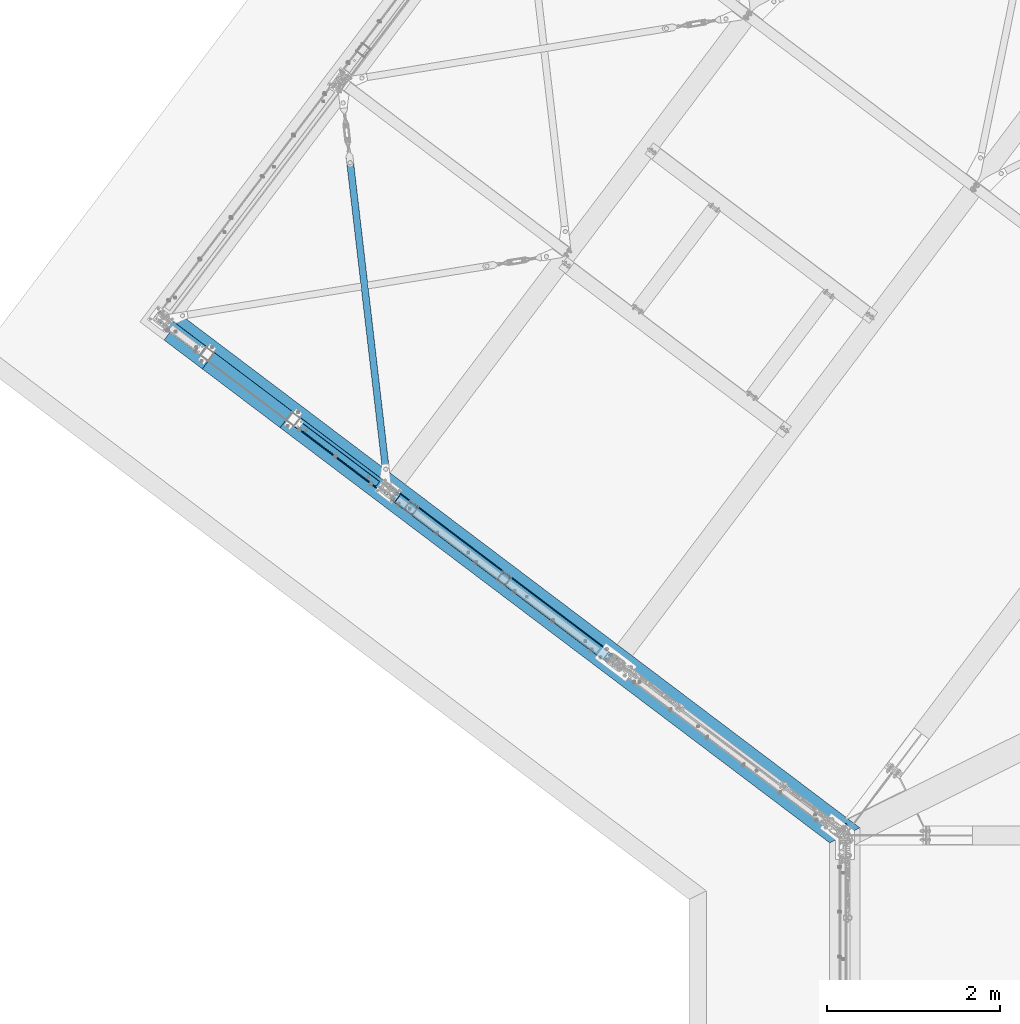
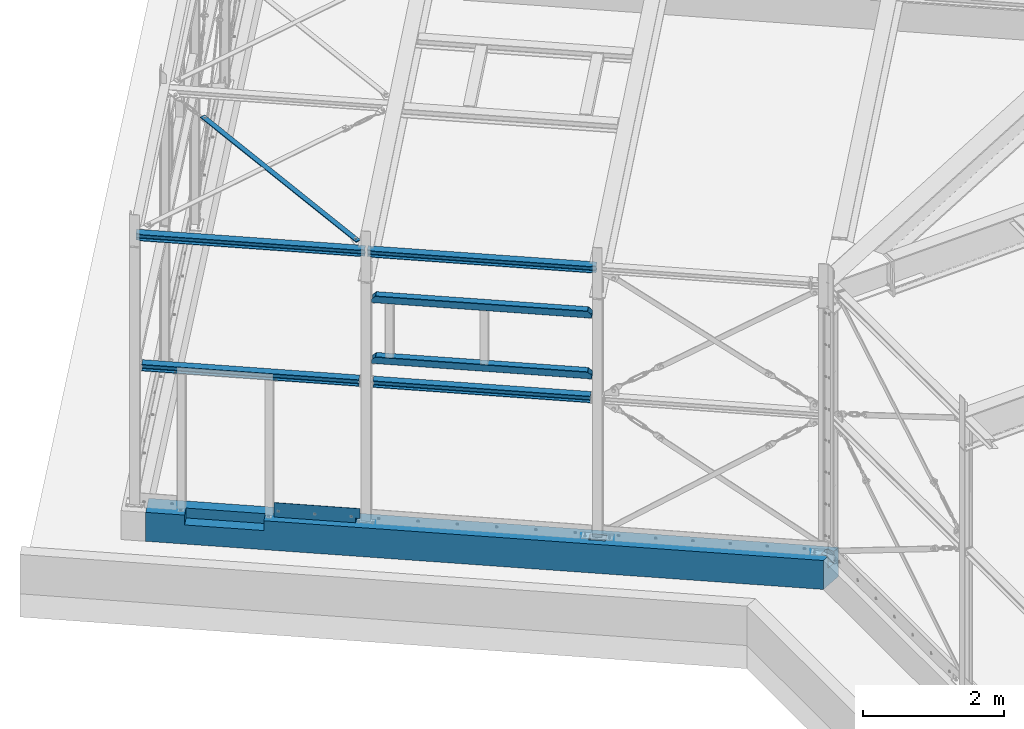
# One storey, part 19 of 476: 8 beams, 1 member, 51 openings.
"""IFC2X3 building model written with IfcOpenShell, lengths in millimetres."""

from ifc_helpers import new_model, entity, si_unit, converted_unit, frame, frame_2d, origin, origin_with_axes, origin_2d, origin_2d_with_axis, place, context, project, spatial, polyline, rectangle, hollow_rectangle, circle, i_section, l_section, outline, extrude, clip, halfspace, material, element, save


model = new_model("IFC2X3")

# Units and contexts
model_context = context("Model", 3, precision=1e-09, world=origin_with_axes())
ifc_project = project(units=[si_unit("LENGTHUNIT", "METRE", prefix="MILLI"), si_unit("AREAUNIT", "SQUARE_METRE"), si_unit("VOLUMEUNIT", "CUBIC_METRE"), converted_unit("PLANEANGLEUNIT", "DEGREE", entity("IfcPlaneAngleMeasure", 0.01745329), si_unit("PLANEANGLEUNIT", "RADIAN"), dimensions=[0, 0, 0, 0, 0, 0, 0])], contexts=[model_context])

# Site, building, storey
site_placement = place(None, origin_with_axes())
site = spatial("IfcSite", under=ifc_project, at=site_placement, Name="mKR Teilneubau & Sanierung BA1 - Ostfildern", CompositionType="ELEMENT")
building_placement = place(site_placement, origin_with_axes())
building = spatial("IfcBuilding", under=site, at=building_placement, Name="Struktur 1", CompositionType="ELEMENT")
storey_placement = place(building_placement, origin_with_axes())
storey = spatial("IfcBuildingStorey", under=building, at=storey_placement, Name="Default Storey", CompositionType="ELEMENT", Elevation=0.0)

# Member, openings
ifc_material_1 = material(Name="S235JR")
member_placement = place(None, frame((2428.487820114, 1903.374727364, 5306.226233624), z_axis=(-0.115440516, 0.993076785, 0.021725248), x_axis=(0.018097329, 0.023970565, -0.999548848)))
member = element("IfcMember", 1, at=member_placement, inside=storey, material=ifc_material_1, Name="-", ObjectType="-", context=model_context, shape_type="SweptSolid", body=[
    extrude(rectangle(XDim=15.0, YDim=80.0, at=origin_2d()), origin(), (0.0, 0.0, -1.0), 3695.564817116),
])
opening_1_placement = place(member_placement, frame((8.0, 0.0, -60.0), z_axis=(-1.0, 0.0, 0.0), x_axis=(0.0, 0.0, -1.0)))
element("IfcOpeningElement", 2, at=opening_1_placement, cuts=member, ObjectType="Opening", context=model_context, shape_type="SweptSolid", body=[
    extrude(circle(Radius=14.501, at=origin_2d_with_axis()), origin(), (0.0, 0.0, 1.0), 16.0),
])
opening_2_placement = place(member_placement, frame((8.0, 0.0, -3635.56481712), z_axis=(-1.0, 0.0, 0.0), x_axis=(0.0, 0.0, -1.0)))
element("IfcOpeningElement", 3, at=opening_2_placement, cuts=member, ObjectType="Opening", context=model_context, shape_type="SweptSolid", body=[
    extrude(circle(Radius=14.501, at=origin_2d_with_axis()), origin(), (0.0, 0.0, 1.0), 16.0),
])

# Beam, openings
beam_1_placement = place(None, frame((2938.260900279, -2008.282588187, 4380.0), z_axis=(-0.797941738, 0.602734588, 0.0), x_axis=(0.0, 0.0, -1.0)))
beam_1 = element("IfcBeam", 4, at=beam_1_placement, inside=storey, material=ifc_material_1, Name="-", ObjectType="-", context=model_context, shape_type="SweptSolid", body=[
    extrude(hollow_rectangle(XDim=120.0, YDim=120.0, WallThickness=4.0, InnerFilletRadius=4.0, OuterFilletRadius=8.0, at=origin_2d()), origin(), (0.0, 0.0, -1.0), 3140.000323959),
])
opening_3_placement = place(beam_1_placement, frame((-60.0, -160.1, 0.0), z_axis=(0.0, 1.0, 0.0), x_axis=(0.0, 0.0, -1.0)))
element("IfcOpeningElement", 5, at=opening_3_placement, cuts=beam_1, ObjectType="Opening", context=model_context, shape_type="SweptSolid", body=[
    extrude(outline(polyline([(-40.461106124, -100.462520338), (108.077348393, 48.075934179), (-36.211596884, 192.364879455), (-184.750051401, 43.826424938), (-40.461106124, -100.462520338)])), origin(), (0.0, 0.0, 1.0), 320.2),
])
opening_4_placement = place(beam_1_placement, frame((-60.0, -160.1, -3140.000323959), z_axis=(0.0, 1.0, 0.0), x_axis=(0.0, 0.0, -1.0)))
element("IfcOpeningElement", 6, at=opening_4_placement, cuts=beam_1, ObjectType="Opening", context=model_context, shape_type="SweptSolid", body=[
    extrude(outline(polyline([(184.750051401, 43.826424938), (36.211596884, 192.364879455), (-108.077348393, 48.075934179), (40.461106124, -100.462520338), (184.750051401, 43.826424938)])), origin(), (0.0, 0.0, 1.0), 320.2),
])
opening_5_placement = place(beam_1_placement, frame((55.5, 0.0, -254.999919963), z_axis=(1.0, 0.0, 0.0), x_axis=(0.0, 0.0, 1.0)))
element("IfcOpeningElement", 7, at=opening_5_placement, cuts=beam_1, ObjectType="Opening", context=model_context, shape_type="SweptSolid", body=[
    extrude(circle(Radius=7.001, at=frame_2d((45.0, 45.0), x_axis=(1.0, 0.0))), origin(), (0.0, 0.0, 1.0), 5.0),
])
opening_6_placement = place(beam_1_placement, frame((55.5, 0.0, -254.999919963), z_axis=(1.0, 0.0, 0.0), x_axis=(0.0, 0.0, 1.0)))
element("IfcOpeningElement", 8, at=opening_6_placement, cuts=beam_1, ObjectType="Opening", context=model_context, shape_type="SweptSolid", body=[
    extrude(circle(Radius=7.001, at=frame_2d((-45.0, 45.0), x_axis=(1.0, 0.0))), origin(), (0.0, 0.0, 1.0), 5.0),
])
opening_7_placement = place(beam_1_placement, frame((55.5, 0.0, -254.999919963), z_axis=(1.0, 0.0, 0.0), x_axis=(0.0, 0.0, 1.0)))
element("IfcOpeningElement", 9, at=opening_7_placement, cuts=beam_1, ObjectType="Opening", context=model_context, shape_type="SweptSolid", body=[
    extrude(circle(Radius=7.001, at=frame_2d((45.0, -45.0), x_axis=(1.0, 0.0))), origin(), (0.0, 0.0, 1.0), 5.0),
])
opening_8_placement = place(beam_1_placement, frame((55.5, 0.0, -254.999919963), z_axis=(1.0, 0.0, 0.0), x_axis=(0.0, 0.0, 1.0)))
element("IfcOpeningElement", 10, at=opening_8_placement, cuts=beam_1, ObjectType="Opening", context=model_context, shape_type="SweptSolid", body=[
    extrude(circle(Radius=7.001, at=frame_2d((-45.0, -45.0), x_axis=(1.0, 0.0))), origin(), (0.0, 0.0, 1.0), 5.0),
])
opening_9_placement = place(beam_1_placement, frame((55.5, 0.0, -1604.999919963), z_axis=(1.0, 0.0, 0.0), x_axis=(0.0, 0.0, 1.0)))
element("IfcOpeningElement", 11, at=opening_9_placement, cuts=beam_1, ObjectType="Opening", context=model_context, shape_type="SweptSolid", body=[
    extrude(circle(Radius=7.001, at=frame_2d((45.0, 45.0), x_axis=(1.0, 0.0))), origin(), (0.0, 0.0, 1.0), 5.0),
])
opening_10_placement = place(beam_1_placement, frame((55.5, 0.0, -1604.999919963), z_axis=(1.0, 0.0, 0.0), x_axis=(0.0, 0.0, 1.0)))
element("IfcOpeningElement", 12, at=opening_10_placement, cuts=beam_1, ObjectType="Opening", context=model_context, shape_type="SweptSolid", body=[
    extrude(circle(Radius=7.001, at=frame_2d((-45.0, 45.0), x_axis=(1.0, 0.0))), origin(), (0.0, 0.0, 1.0), 5.0),
])
opening_11_placement = place(beam_1_placement, frame((55.5, 0.0, -1604.999919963), z_axis=(1.0, 0.0, 0.0), x_axis=(0.0, 0.0, 1.0)))
element("IfcOpeningElement", 13, at=opening_11_placement, cuts=beam_1, ObjectType="Opening", context=model_context, shape_type="SweptSolid", body=[
    extrude(circle(Radius=7.001, at=frame_2d((45.0, -45.0), x_axis=(1.0, 0.0))), origin(), (0.0, 0.0, 1.0), 5.0),
])
opening_12_placement = place(beam_1_placement, frame((55.5, 0.0, -1604.999919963), z_axis=(1.0, 0.0, 0.0), x_axis=(0.0, 0.0, 1.0)))
element("IfcOpeningElement", 14, at=opening_12_placement, cuts=beam_1, ObjectType="Opening", context=model_context, shape_type="SweptSolid", body=[
    extrude(circle(Radius=7.001, at=frame_2d((-45.0, -45.0), x_axis=(1.0, 0.0))), origin(), (0.0, 0.0, 1.0), 5.0),
])
opening_13_placement = place(beam_1_placement, frame((60.5, 0.0, -29.999), z_axis=(-1.0, 0.0, 0.0), x_axis=(0.0, 0.0, -1.0)))
element("IfcOpeningElement", 15, at=opening_13_placement, cuts=beam_1, ObjectType="Opening", context=model_context, shape_type="SweptSolid", body=[
    extrude(circle(Radius=7.001, at=frame_2d((0.0, 30.0), x_axis=(1.0, 0.0))), origin(), (0.0, 0.0, 1.0), 5.0),
])
opening_14_placement = place(beam_1_placement, frame((60.5, 0.0, -29.999), z_axis=(-1.0, 0.0, 0.0), x_axis=(0.0, 0.0, -1.0)))
element("IfcOpeningElement", 16, at=opening_14_placement, cuts=beam_1, ObjectType="Opening", context=model_context, shape_type="SweptSolid", body=[
    extrude(circle(Radius=7.001, at=frame_2d((0.0, -30.0), x_axis=(1.0, 0.0))), origin(), (0.0, 0.0, 1.0), 5.0),
])
opening_15_placement = place(beam_1_placement, frame((60.5, -30.0, -3117.002323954), z_axis=(1.0, 0.0, 0.0), x_axis=(0.0, 1.0, 0.0)))
element("IfcOpeningElement", 17, at=opening_15_placement, cuts=beam_1, ObjectType="Opening", context=model_context, shape_type="SweptSolid", body=[
    extrude(circle(Radius=7.001, at=frame_2d((0.0, 7.001), x_axis=(1.0, 0.0))), origin(), (0.0, 0.0, -1.0), 5.0),
])
opening_16_placement = place(beam_1_placement, frame((60.5, 30.0, -3117.002323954), z_axis=(1.0, 0.0, 0.0), x_axis=(0.0, 1.0, 0.0)))
element("IfcOpeningElement", 18, at=opening_16_placement, cuts=beam_1, ObjectType="Opening", context=model_context, shape_type="SweptSolid", body=[
    extrude(circle(Radius=7.001, at=frame_2d((0.0, 7.001), x_axis=(1.0, 0.0))), origin(), (0.0, 0.0, -1.0), 5.0),
])

beam_2_placement = place(None, frame((179.098803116, 84.028235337, 2912.000000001), z_axis=(-0.797941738, 0.602734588, 0.0), x_axis=(-0.602734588, -0.797941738, 0.0)))
beam_2 = element("IfcBeam", 19, at=beam_2_placement, inside=storey, material=ifc_material_1, Name="-", ObjectType="-", context=model_context, shape_type="Clipping", body=[
    clip(clip(extrude(i_section(OverallWidth=120.0, OverallDepth=114.0, WebThickness=5.0, FlangeThickness=8.0, FilletRadius=12.0, at=origin_2d()), origin(), (0.0, 0.0, -1.0), 3465.517377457), halfspace(frame((174.9983257, -2912.000000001, -3282.757710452), z_axis=(1.05e-07, 0.0, 1.0), x_axis=(1.0, 0.0, -1.05e-07)), True)), halfspace(frame((174.998650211, -2912.000000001, -186.259738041), z_axis=(-1.05e-07, 0.0, -1.0), x_axis=(-1.0, 0.0, 1.05e-07)), True)),
])
opening_17_placement = place(beam_2_placement, frame((-28.501458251, -57.5, -2103.760297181), z_axis=(0.0, -1.0, 0.0), x_axis=(1.0, 0.0, 0.0)))
element("IfcOpeningElement", 20, at=opening_17_placement, cuts=beam_2, ObjectType="Opening", context=model_context, shape_type="SweptSolid", body=[
    extrude(circle(Radius=6.001, at=frame_2d((0.0, 6.001), x_axis=(1.0, 0.0))), origin(), (0.0, 0.0, -1.0), 9.0),
])
opening_18_placement = place(beam_2_placement, frame((41.498541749, -57.5, -2103.760297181), z_axis=(0.0, -1.0, 0.0), x_axis=(1.0, 0.0, 0.0)))
element("IfcOpeningElement", 21, at=opening_18_placement, cuts=beam_2, ObjectType="Opening", context=model_context, shape_type="SweptSolid", body=[
    extrude(circle(Radius=6.001, at=frame_2d((0.0, 6.001), x_axis=(1.0, 0.0))), origin(), (0.0, 0.0, -1.0), 9.0),
])
opening_19_placement = place(beam_2_placement, frame((6.498528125, -57.5, -657.757137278), z_axis=(0.0, 1.0, 0.0), x_axis=(0.0, 0.0, -1.0)))
element("IfcOpeningElement", 22, at=opening_19_placement, cuts=beam_2, ObjectType="Opening", context=model_context, shape_type="SweptSolid", body=[
    extrude(circle(Radius=6.001, at=frame_2d((0.0, 35.0), x_axis=(1.0, 0.0))), origin(), (0.0, 0.0, 1.0), 9.0),
])
opening_20_placement = place(beam_2_placement, frame((6.498528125, -57.5, -657.757137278), z_axis=(0.0, 1.0, 0.0), x_axis=(0.0, 0.0, -1.0)))
element("IfcOpeningElement", 23, at=opening_20_placement, cuts=beam_2, ObjectType="Opening", context=model_context, shape_type="SweptSolid", body=[
    extrude(circle(Radius=6.001, at=frame_2d((0.0, -35.0), x_axis=(1.0, 0.0))), origin(), (0.0, 0.0, 1.0), 9.0),
])

# Beam
beam_3_placement = place(None, frame((2812.306542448, -1904.995908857, 2912.000000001), z_axis=(-0.797941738, 0.602734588, 0.0), x_axis=(-0.602734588, -0.797941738, 0.0)))
element("IfcBeam", 24, at=beam_3_placement, inside=storey, material=ifc_material_1, Name="-", ObjectType="-", context=model_context, shape_type="Clipping", body=[
    clip(clip(extrude(i_section(OverallWidth=120.0, OverallDepth=114.0, WebThickness=5.0, FlangeThickness=8.0, FilletRadius=12.0, at=origin_2d()), origin(), (0.0, 0.0, -1.0), 3465.517422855), halfspace(frame((174.997979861, -2912.000000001, -3282.75775585), z_axis=(1.05e-07, 0.0, 1.0), x_axis=(1.0, 0.0, -1.05e-07)), True)), halfspace(frame((174.998304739, -2912.000000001, -182.759703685), z_axis=(-1.05e-07, 0.0, -1.0), x_axis=(-1.0, 0.0, 1.05e-07)), True)),
])

# Beam, openings
ifc_material_2 = material(Name="C25/30")
beam_4_placement = place(None, frame((8729.98368355, -6374.980492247, 250.0), z_axis=(0.797941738, -0.602734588, 0.0), x_axis=(0.602734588, 0.797941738, 0.0)))
beam_4 = element("IfcBeam", 25, at=beam_4_placement, inside=storey, material=ifc_material_2, Name="-", ObjectType="-", context=model_context, shape_type="Clipping", body=[
    clip(extrude(outline(polyline([(175.0, -250.0), (175.0, 250.0), (-175.0, 250.0), (-175.0, -250.0), (175.0, -250.0)])), origin(), (0.0, 0.0, -1.0), 10458.417282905), halfspace(frame((-4170.304017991, -250.0, -2783.528188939), z_axis=(0.445682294, 0.0, -0.895191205), x_axis=(-0.895191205, 0.0, -0.445682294)), True)),
])
opening_21_placement = place(beam_4_placement, frame((175.0, 80.0, -10458.417282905), z_axis=(0.0, 1.0, 0.0), x_axis=(2.493e-06, 0.0, 1.0)))
element("IfcOpeningElement", 26, at=opening_21_placement, cuts=beam_4, ObjectType="Opening", context=model_context, shape_type="SweptSolid", body=[
    extrude(outline(polyline([(554.997668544, -840.354246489), (1685.000677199, -840.354246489), (1685.000677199, -175.003235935), (554.997668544, -175.003235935), (554.997668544, -840.354246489)])), origin(), (0.0, 0.0, 1.0), 270.1),
])
opening_22_placement = place(beam_4_placement, frame((175.0, 50.0, -620.162410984), z_axis=(0.0, 1.0, 0.0), x_axis=(0.602734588, 0.0, 0.797941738)))
element("IfcOpeningElement", 27, at=opening_22_placement, cuts=beam_4, ObjectType="Opening", context=model_context, shape_type="SweptSolid", body=[
    extrude(outline(polyline([(-188.650244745, -227.975428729), (-54.373964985, -161.113775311), (-161.352075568, 53.727198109), (-295.628355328, -13.13445531), (-188.650244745, -227.975428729)])), origin(), (0.0, 0.0, 1.0), 300.1),
])
opening_23_placement = place(beam_4_placement, frame((175.0, 50.0, -620.162410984), z_axis=(0.0, 1.0, 0.0), x_axis=(0.0, 0.0, 1.0)))
element("IfcOpeningElement", 28, at=opening_23_placement, cuts=beam_4, ObjectType="Opening", context=model_context, shape_type="SweptSolid", body=[
    extrude(outline(polyline([(-3533.255764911, -250.001474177), (-3293.253764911, -250.001474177), (-3293.253764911, -99.999474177), (-3533.255764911, -99.999474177), (-3533.255764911, -250.001474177)])), origin(), (0.0, 0.0, 1.0), 300.1),
])

beam_5_placement = place(None, frame((179.098803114, 84.028235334, 5157.221194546), z_axis=(-0.797941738, 0.602734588, 0.0), x_axis=(-0.602462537, -0.797581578, -0.030041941)))
beam_5 = element("IfcBeam", 29, at=beam_5_placement, inside=storey, material=ifc_material_1, Name="-", ObjectType="-", context=model_context, shape_type="Clipping", body=[
    clip(clip(extrude(i_section(OverallWidth=120.0, OverallDepth=114.0, WebThickness=5.0, FlangeThickness=8.0, FilletRadius=12.0, at=origin_2d()), origin(), (0.0, 0.0, -1.0), 3465.517324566), halfspace(frame((329.8522668, -5149.636126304, -3364.757726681), z_axis=(1.05e-07, 0.0, 1.0), x_axis=(0.999548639, 0.030041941, -1.05e-07)), True)), halfspace(frame((329.852608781, -5149.636126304, -101.55975427), z_axis=(-1.05e-07, 0.0, -1.0), x_axis=(-0.999548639, -0.030041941, 1.05e-07)), True)),
])
opening_24_placement = place(beam_5_placement, frame((0.0, -1.332627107, -3382.758639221), z_axis=(0.0, 1.0, 0.0), x_axis=(-1.05e-07, 0.0, -1.0)))
element("IfcOpeningElement", 30, at=opening_24_placement, cuts=beam_5, ObjectType="Opening", context=model_context, shape_type="SweptSolid", body=[
    extrude(outline(polyline([(-79.999947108, -44.999991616), (-79.999947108, -75.000004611), (-17.999947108, -75.000004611), (-17.999947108, -44.999991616), (-79.999947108, -44.999991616)])), origin(), (0.0, 0.0, 1.0), 59.665254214),
])
opening_25_placement = place(beam_5_placement, frame((0.0, -58.353598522, -3382.758639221), z_axis=(0.0, 1.0, 0.0), x_axis=(-1.05e-07, 0.0, -1.0)))
element("IfcOpeningElement", 31, at=opening_25_placement, cuts=beam_5, ObjectType="Opening", context=model_context, shape_type="SweptSolid", body=[
    extrude(outline(polyline([(-79.999947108, -44.999991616), (-79.999947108, -75.000004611), (-17.999947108, -75.000004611), (-17.999947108, -44.999991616), (-79.999947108, -44.999991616)])), origin(), (0.0, 0.0, 1.0), 59.707197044),
])
opening_26_placement = place(beam_5_placement, frame((0.0, 58.32209218, -82.758685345), z_axis=(0.0, -1.0, 0.0), x_axis=(1.05e-07, 0.0, 1.0)))
element("IfcOpeningElement", 32, at=opening_26_placement, cuts=beam_5, ObjectType="Opening", context=model_context, shape_type="SweptSolid", body=[
    extrude(outline(polyline([(-83.500034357, -45.000008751), (-83.500034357, -75.000008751), (-18.800034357, -75.000008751), (-18.800034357, -45.000008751), (-83.500034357, -45.000008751)])), origin(), (0.0, 0.0, 1.0), 59.64418436),
])
opening_27_placement = place(beam_5_placement, frame((0.0, 1.302530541, -82.758685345), z_axis=(0.0, -1.0, 0.0), x_axis=(1.05e-07, 0.0, 1.0)))
element("IfcOpeningElement", 33, at=opening_27_placement, cuts=beam_5, ObjectType="Opening", context=model_context, shape_type="SweptSolid", body=[
    extrude(outline(polyline([(-83.500034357, -45.000008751), (-83.500034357, -75.000008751), (-18.800034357, -75.000008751), (-18.800034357, -45.000008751), (-83.500034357, -45.000008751)])), origin(), (0.0, 0.0, 1.0), 59.605061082),
])

beam_6_placement = place(None, frame((2812.306500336, -1904.995876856, 5157.221184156), z_axis=(-0.797941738, 0.602734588, 0.0), x_axis=(-0.602462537, -0.797581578, -0.030041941)))
beam_6 = element("IfcBeam", 34, at=beam_6_placement, inside=storey, material=ifc_material_1, Name="-", ObjectType="-", context=model_context, shape_type="Clipping", body=[
    clip(clip(extrude(i_section(OverallWidth=120.0, OverallDepth=114.0, WebThickness=5.0, FlangeThickness=8.0, FilletRadius=12.0, at=origin_2d()), origin(), (0.0, 0.0, -1.0), 3465.517425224), halfspace(frame((329.851920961, -5149.636126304, -3364.75782497), z_axis=(1.05e-07, 0.0, 1.0), x_axis=(0.999548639, 0.030041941, -1.05e-07)), True)), halfspace(frame((329.852263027, -5149.636126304, -100.759772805), z_axis=(-1.05e-07, 0.0, -1.0), x_axis=(-0.999548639, -0.030041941, 1.05e-07)), True)),
])
opening_28_placement = place(beam_6_placement, frame((0.0, -1.332627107, -3382.758739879), z_axis=(0.0, 1.0, 0.0), x_axis=(-1.05e-07, 0.0, -1.0)))
element("IfcOpeningElement", 35, at=opening_28_placement, cuts=beam_6, ObjectType="Opening", context=model_context, shape_type="SweptSolid", body=[
    extrude(outline(polyline([(-79.999949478, -44.999991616), (-79.999949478, -75.000004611), (-17.999949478, -75.000004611), (-17.999949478, -44.999991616), (-79.999949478, -44.999991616)])), origin(), (0.0, 0.0, 1.0), 59.665254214),
])
opening_29_placement = place(beam_6_placement, frame((0.0, -58.353598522, -3382.758739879), z_axis=(0.0, 1.0, 0.0), x_axis=(-1.05e-07, 0.0, -1.0)))
element("IfcOpeningElement", 36, at=opening_29_placement, cuts=beam_6, ObjectType="Opening", context=model_context, shape_type="SweptSolid", body=[
    extrude(outline(polyline([(-79.999949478, -44.999991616), (-79.999949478, -75.000004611), (-17.999949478, -75.000004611), (-17.999949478, -44.999991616), (-79.999949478, -44.999991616)])), origin(), (0.0, 0.0, 1.0), 59.707197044),
])
opening_30_placement = place(beam_6_placement, frame((0.0, 58.353598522, -82.758685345), z_axis=(0.0, -1.0, 0.0), x_axis=(1.05e-07, 0.0, 1.0)))
element("IfcOpeningElement", 37, at=opening_30_placement, cuts=beam_6, ObjectType="Opening", context=model_context, shape_type="SweptSolid", body=[
    extrude(outline(polyline([(-80.000052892, -45.000008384), (-80.000052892, -75.000008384), (-18.000052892, -75.000008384), (-18.000052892, -45.000008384), (-80.000052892, -45.000008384)])), origin(), (0.0, 0.0, 1.0), 59.707197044),
])
opening_31_placement = place(beam_6_placement, frame((0.0, 1.332627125, -82.758685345), z_axis=(0.0, -1.0, 0.0), x_axis=(1.05e-07, 0.0, 1.0)))
element("IfcOpeningElement", 38, at=opening_31_placement, cuts=beam_6, ObjectType="Opening", context=model_context, shape_type="SweptSolid", body=[
    extrude(outline(polyline([(-80.000052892, -45.000008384), (-80.000052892, -75.000008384), (-18.000052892, -75.000008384), (-18.000052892, -45.000008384), (-80.000052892, -45.000008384)])), origin(), (0.0, 0.0, 1.0), 59.665254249),
])

beam_7_placement = place(None, frame((1802.360868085, -1205.910605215, 594.5), z_axis=(0.797941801, -0.602734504, 0.0), x_axis=(0.602734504, 0.797941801, 0.0)))
beam_7 = element("IfcBeam", 39, at=beam_7_placement, inside=storey, material=ifc_material_1, Name="-", ObjectType="-", context=model_context, shape_type="SweptSolid", body=[
    extrude(l_section(Depth=250.0, Width=90.0, Thickness=10.0, FilletRadius=15.0, EdgeRadius=7.5, at=frame_2d((30.5, 29.4))), origin(), (0.0, 0.0, 1.0), 1229.999469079),
])
opening_32_placement = place(beam_7_placement, frame((-115.7, -144.501, 1164.998389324), z_axis=(-1.0, 0.0, 0.0), x_axis=(0.0, 0.0, 1.0)))
element("IfcOpeningElement", 40, at=opening_32_placement, cuts=beam_7, ObjectType="Opening", context=model_context, shape_type="SweptSolid", body=[
    extrude(outline(polyline([(0.0, 0.0), (125.076809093, 0.0), (125.076809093, 130.002), (0.0, 130.002), (0.0, 0.0)])), origin(), (0.0, 0.0, -1.0), 290.2),
])
opening_33_placement = place(beam_7_placement, frame((34.4, -95.0, 582.499194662), z_axis=(0.0, 1.0, 0.0), x_axis=(0.0, 0.0, 1.0)))
element("IfcOpeningElement", 41, at=opening_33_placement, cuts=beam_7, ObjectType="Opening", context=model_context, shape_type="SweptSolid", body=[
    extrude(circle(Radius=6.001, at=frame_2d((450.0, 0.0), x_axis=(1.0, 0.0))), origin(), (0.0, 0.0, 1.0), 11.0),
])
opening_34_placement = place(beam_7_placement, frame((34.4, -95.0, 582.499194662), z_axis=(0.0, 1.0, 0.0), x_axis=(0.0, 0.0, 1.0)))
element("IfcOpeningElement", 42, at=opening_34_placement, cuts=beam_7, ObjectType="Opening", context=model_context, shape_type="SweptSolid", body=[
    extrude(circle(Radius=6.001, at=frame_2d((-450.0, 0.0), x_axis=(1.0, 0.0))), origin(), (0.0, 0.0, 1.0), 11.0),
])
opening_35_placement = place(beam_7_placement, frame((-5.1, 13.5, 584.999734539), z_axis=(-1.0, 0.0, 0.0), x_axis=(0.0, 0.0, 1.0)))
element("IfcOpeningElement", 43, at=opening_35_placement, cuts=beam_7, ObjectType="Opening", context=model_context, shape_type="SweptSolid", body=[
    extrude(circle(Radius=7.001, at=origin_2d_with_axis()), origin(), (0.0, 0.0, 1.0), 11.0),
])
opening_36_placement = place(beam_7_placement, frame((-5.1, 13.5, 584.999734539), z_axis=(-1.0, 0.0, 0.0), x_axis=(0.0, 0.0, 1.0)))
element("IfcOpeningElement", 44, at=opening_36_placement, cuts=beam_7, ObjectType="Opening", context=model_context, shape_type="SweptSolid", body=[
    extrude(circle(Radius=7.001, at=frame_2d((520.0, 0.0), x_axis=(1.0, 0.0))), origin(), (0.0, 0.0, 1.0), 11.0),
])
opening_37_placement = place(beam_7_placement, frame((-5.1, 13.5, 584.999734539), z_axis=(-1.0, 0.0, 0.0), x_axis=(0.0, 0.0, 1.0)))
element("IfcOpeningElement", 45, at=opening_37_placement, cuts=beam_7, ObjectType="Opening", context=model_context, shape_type="SweptSolid", body=[
    extrude(circle(Radius=7.001, at=frame_2d((-520.0, 0.0), x_axis=(1.0, 0.0))), origin(), (0.0, 0.0, 1.0), 11.0),
])

beam_8_placement = place(None, frame((2938.260900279, -2008.282588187, 3330.0), z_axis=(-0.797941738, 0.602734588, 0.0), x_axis=(0.0, 0.0, -1.0)))
beam_8 = element("IfcBeam", 46, at=beam_8_placement, inside=storey, material=ifc_material_1, Name="-", ObjectType="-", context=model_context, shape_type="SweptSolid", body=[
    extrude(hollow_rectangle(XDim=120.0, YDim=120.0, WallThickness=4.0, InnerFilletRadius=4.0, OuterFilletRadius=8.0, at=origin_2d()), origin(), (0.0, 0.0, -1.0), 3140.000323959),
])
opening_38_placement = place(beam_8_placement, frame((-60.0, -160.1, 0.0), z_axis=(0.0, 1.0, 0.0), x_axis=(0.0, 0.0, -1.0)))
element("IfcOpeningElement", 47, at=opening_38_placement, cuts=beam_8, ObjectType="Opening", context=model_context, shape_type="SweptSolid", body=[
    extrude(outline(polyline([(-40.461106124, -100.462520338), (108.077348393, 48.075934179), (-36.211596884, 192.364879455), (-184.750051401, 43.826424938), (-40.461106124, -100.462520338)])), origin(), (0.0, 0.0, 1.0), 320.2),
])
opening_39_placement = place(beam_8_placement, frame((-60.0, -160.1, -3140.000323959), z_axis=(0.0, 1.0, 0.0), x_axis=(0.0, 0.0, -1.0)))
element("IfcOpeningElement", 48, at=opening_39_placement, cuts=beam_8, ObjectType="Opening", context=model_context, shape_type="SweptSolid", body=[
    extrude(outline(polyline([(184.750051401, 43.826424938), (36.211596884, 192.364879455), (-108.077348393, 48.075934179), (40.461106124, -100.462520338), (184.750051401, 43.826424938)])), origin(), (0.0, 0.0, 1.0), 320.2),
])
opening_40_placement = place(beam_8_placement, frame((-55.5, -1e-09, -254.999919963), z_axis=(-1.0, 0.0, 0.0), x_axis=(0.0, 0.0, 1.0)))
element("IfcOpeningElement", 49, at=opening_40_placement, cuts=beam_8, ObjectType="Opening", context=model_context, shape_type="SweptSolid", body=[
    extrude(circle(Radius=7.001, at=frame_2d((45.0, 45.0), x_axis=(1.0, 0.0))), origin(), (0.0, 0.0, 1.0), 5.0),
])
opening_41_placement = place(beam_8_placement, frame((-55.5, -1e-09, -254.999919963), z_axis=(-1.0, 0.0, 0.0), x_axis=(0.0, 0.0, 1.0)))
element("IfcOpeningElement", 50, at=opening_41_placement, cuts=beam_8, ObjectType="Opening", context=model_context, shape_type="SweptSolid", body=[
    extrude(circle(Radius=7.001, at=frame_2d((-45.0, 45.0), x_axis=(1.0, 0.0))), origin(), (0.0, 0.0, 1.0), 5.0),
])
opening_42_placement = place(beam_8_placement, frame((-55.5, -1e-09, -254.999919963), z_axis=(-1.0, 0.0, 0.0), x_axis=(0.0, 0.0, 1.0)))
element("IfcOpeningElement", 51, at=opening_42_placement, cuts=beam_8, ObjectType="Opening", context=model_context, shape_type="SweptSolid", body=[
    extrude(circle(Radius=7.001, at=frame_2d((45.0, -45.0), x_axis=(1.0, 0.0))), origin(), (0.0, 0.0, 1.0), 5.0),
])
opening_43_placement = place(beam_8_placement, frame((-55.5, -1e-09, -254.999919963), z_axis=(-1.0, 0.0, 0.0), x_axis=(0.0, 0.0, 1.0)))
element("IfcOpeningElement", 52, at=opening_43_placement, cuts=beam_8, ObjectType="Opening", context=model_context, shape_type="SweptSolid", body=[
    extrude(circle(Radius=7.001, at=frame_2d((-45.0, -45.0), x_axis=(1.0, 0.0))), origin(), (0.0, 0.0, 1.0), 5.0),
])
opening_44_placement = place(beam_8_placement, frame((-55.5, -1e-09, -1604.999919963), z_axis=(-1.0, 0.0, 0.0), x_axis=(0.0, 0.0, 1.0)))
element("IfcOpeningElement", 53, at=opening_44_placement, cuts=beam_8, ObjectType="Opening", context=model_context, shape_type="SweptSolid", body=[
    extrude(circle(Radius=7.001, at=frame_2d((45.0, 45.0), x_axis=(1.0, 0.0))), origin(), (0.0, 0.0, 1.0), 5.0),
])
opening_45_placement = place(beam_8_placement, frame((-55.5, -1e-09, -1604.999919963), z_axis=(-1.0, 0.0, 0.0), x_axis=(0.0, 0.0, 1.0)))
element("IfcOpeningElement", 54, at=opening_45_placement, cuts=beam_8, ObjectType="Opening", context=model_context, shape_type="SweptSolid", body=[
    extrude(circle(Radius=7.001, at=frame_2d((-45.0, 45.0), x_axis=(1.0, 0.0))), origin(), (0.0, 0.0, 1.0), 5.0),
])
opening_46_placement = place(beam_8_placement, frame((-55.5, -1e-09, -1604.999919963), z_axis=(-1.0, 0.0, 0.0), x_axis=(0.0, 0.0, 1.0)))
element("IfcOpeningElement", 55, at=opening_46_placement, cuts=beam_8, ObjectType="Opening", context=model_context, shape_type="SweptSolid", body=[
    extrude(circle(Radius=7.001, at=frame_2d((45.0, -45.0), x_axis=(1.0, 0.0))), origin(), (0.0, 0.0, 1.0), 5.0),
])
opening_47_placement = place(beam_8_placement, frame((-55.5, -1e-09, -1604.999919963), z_axis=(-1.0, 0.0, 0.0), x_axis=(0.0, 0.0, 1.0)))
element("IfcOpeningElement", 56, at=opening_47_placement, cuts=beam_8, ObjectType="Opening", context=model_context, shape_type="SweptSolid", body=[
    extrude(circle(Radius=7.001, at=frame_2d((-45.0, -45.0), x_axis=(1.0, 0.0))), origin(), (0.0, 0.0, 1.0), 5.0),
])
opening_48_placement = place(beam_8_placement, frame((60.5, 0.0, -29.999), z_axis=(-1.0, 0.0, 0.0), x_axis=(0.0, 0.0, -1.0)))
element("IfcOpeningElement", 57, at=opening_48_placement, cuts=beam_8, ObjectType="Opening", context=model_context, shape_type="SweptSolid", body=[
    extrude(circle(Radius=7.001, at=frame_2d((0.0, 30.0), x_axis=(1.0, 0.0))), origin(), (0.0, 0.0, 1.0), 5.0),
])
opening_49_placement = place(beam_8_placement, frame((60.5, 0.0, -29.999), z_axis=(-1.0, 0.0, 0.0), x_axis=(0.0, 0.0, -1.0)))
element("IfcOpeningElement", 58, at=opening_49_placement, cuts=beam_8, ObjectType="Opening", context=model_context, shape_type="SweptSolid", body=[
    extrude(circle(Radius=7.001, at=frame_2d((0.0, -30.0), x_axis=(1.0, 0.0))), origin(), (0.0, 0.0, 1.0), 5.0),
])
opening_50_placement = place(beam_8_placement, frame((60.5, -30.0, -3117.002323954), z_axis=(1.0, 0.0, 0.0), x_axis=(0.0, 1.0, 0.0)))
element("IfcOpeningElement", 59, at=opening_50_placement, cuts=beam_8, ObjectType="Opening", context=model_context, shape_type="SweptSolid", body=[
    extrude(circle(Radius=7.001, at=frame_2d((0.0, 7.001), x_axis=(1.0, 0.0))), origin(), (0.0, 0.0, -1.0), 5.0),
])
opening_51_placement = place(beam_8_placement, frame((60.5, 30.0, -3117.002323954), z_axis=(1.0, 0.0, 0.0), x_axis=(0.0, 1.0, 0.0)))
element("IfcOpeningElement", 60, at=opening_51_placement, cuts=beam_8, ObjectType="Opening", context=model_context, shape_type="SweptSolid", body=[
    extrude(circle(Radius=7.001, at=frame_2d((0.0, 7.001), x_axis=(1.0, 0.0))), origin(), (0.0, 0.0, -1.0), 5.0),
])

save(model, "model.ifc")
